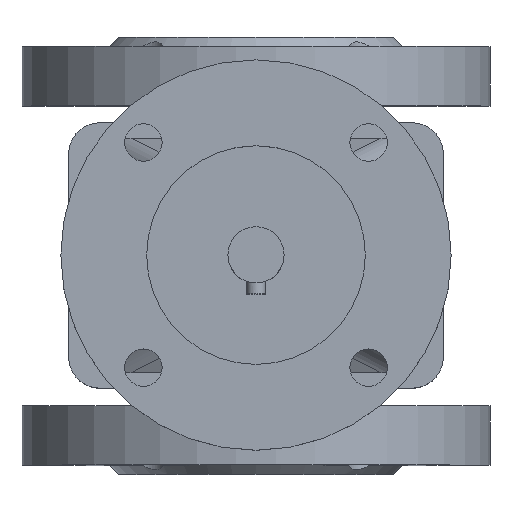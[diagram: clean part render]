
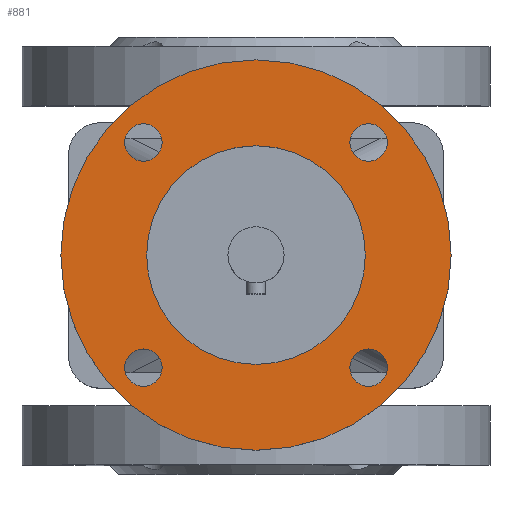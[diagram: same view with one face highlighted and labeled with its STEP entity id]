
A CAD part, top view. The second image highlights one B-rep face of the part: STEP entity #881.
In plain terms, the highlighted planar face has unit normal (0, 0, 1).
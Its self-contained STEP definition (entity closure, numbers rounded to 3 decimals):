
#881=ADVANCED_FACE('',(#1969,#1971,#1973,#1975,#1977,#1979),#1981,.T.);
#1969=FACE_BOUND('',#1970,.T.);
#1970=EDGE_LOOP('',(#2516));
#1971=FACE_BOUND('',#1972,.T.);
#1972=EDGE_LOOP('',(#2517));
#1973=FACE_BOUND('',#1974,.T.);
#1974=EDGE_LOOP('',(#2518));
#1975=FACE_BOUND('',#1976,.T.);
#1976=EDGE_LOOP('',(#2519));
#1977=FACE_BOUND('',#1978,.T.);
#1978=EDGE_LOOP('',(#2520));
#1979=FACE_BOUND('',#1980,.T.);
#1980=EDGE_LOOP('',(#2521));
#1981=PLANE('',#1982);
#1982=AXIS2_PLACEMENT_3D('',#1983,#1984,#1985);
#1983=CARTESIAN_POINT('',(0.,0.,169.));
#1984=DIRECTION('',(0.,0.,1.));
#1985=DIRECTION('',(-1.,0.,0.));
#2516=ORIENTED_EDGE('',*,*,#2780,.F.);
#2517=ORIENTED_EDGE('',*,*,#2781,.T.);
#2518=ORIENTED_EDGE('',*,*,#2782,.T.);
#2519=ORIENTED_EDGE('',*,*,#2783,.T.);
#2520=ORIENTED_EDGE('',*,*,#2785,.T.);
#2521=ORIENTED_EDGE('',*,*,#2784,.T.);
#2780=EDGE_CURVE('',#3183,#3183,#3184,.T.);
#2781=EDGE_CURVE('',#3185,#3185,#3186,.F.);
#2782=EDGE_CURVE('',#3187,#3187,#3188,.F.);
#2783=EDGE_CURVE('',#3189,#3189,#3190,.F.);
#2784=EDGE_CURVE('',#3191,#3191,#3192,.F.);
#2785=EDGE_CURVE('',#3193,#3193,#3194,.T.);
#3183=VERTEX_POINT('',#4786);
#3184=CIRCLE('',#4787,62.5);
#3185=VERTEX_POINT('',#4791);
#3186=CIRCLE('',#4792,6.);
#3187=VERTEX_POINT('',#4796);
#3188=CIRCLE('',#4797,6.);
#3189=VERTEX_POINT('',#4801);
#3190=CIRCLE('',#4802,6.);
#3191=VERTEX_POINT('',#4806);
#3192=CIRCLE('',#4807,6.);
#3193=VERTEX_POINT('',#4811);
#3194=CIRCLE('',#4812,35.);
#4786=CARTESIAN_POINT('',(-62.5,0.,169.));
#4787=AXIS2_PLACEMENT_3D('',#4788,#4789,#4790);
#4788=CARTESIAN_POINT('',(0.,0.,169.));
#4789=DIRECTION('',(0.,0.,-1.));
#4790=DIRECTION('',(-1.,0.,0.));
#4791=CARTESIAN_POINT('',(36.062,30.062,169.));
#4792=AXIS2_PLACEMENT_3D('',#4793,#4794,#4795);
#4793=CARTESIAN_POINT('',(36.062,36.062,169.));
#4794=DIRECTION('',(0.,0.,1.));
#4795=DIRECTION('',(0.,-1.,0.));
#4796=CARTESIAN_POINT('',(-30.062,36.062,169.));
#4797=AXIS2_PLACEMENT_3D('',#4798,#4799,#4800);
#4798=CARTESIAN_POINT('',(-36.062,36.062,169.));
#4799=DIRECTION('',(0.,0.,1.));
#4800=DIRECTION('',(1.,0.,0.));
#4801=CARTESIAN_POINT('',(-36.062,-30.062,169.));
#4802=AXIS2_PLACEMENT_3D('',#4803,#4804,#4805);
#4803=CARTESIAN_POINT('',(-36.062,-36.062,169.));
#4804=DIRECTION('',(0.,0.,1.));
#4805=DIRECTION('',(0.,1.,0.));
#4806=CARTESIAN_POINT('',(30.062,-36.062,169.));
#4807=AXIS2_PLACEMENT_3D('',#4808,#4809,#4810);
#4808=CARTESIAN_POINT('',(36.062,-36.062,169.));
#4809=DIRECTION('',(0.,0.,1.));
#4810=DIRECTION('',(-1.,0.,0.));
#4811=CARTESIAN_POINT('',(-35.,0.,169.));
#4812=AXIS2_PLACEMENT_3D('',#4813,#4814,#4815);
#4813=CARTESIAN_POINT('',(0.,0.,169.));
#4814=DIRECTION('',(0.,0.,-1.));
#4815=DIRECTION('',(-1.,0.,0.));
